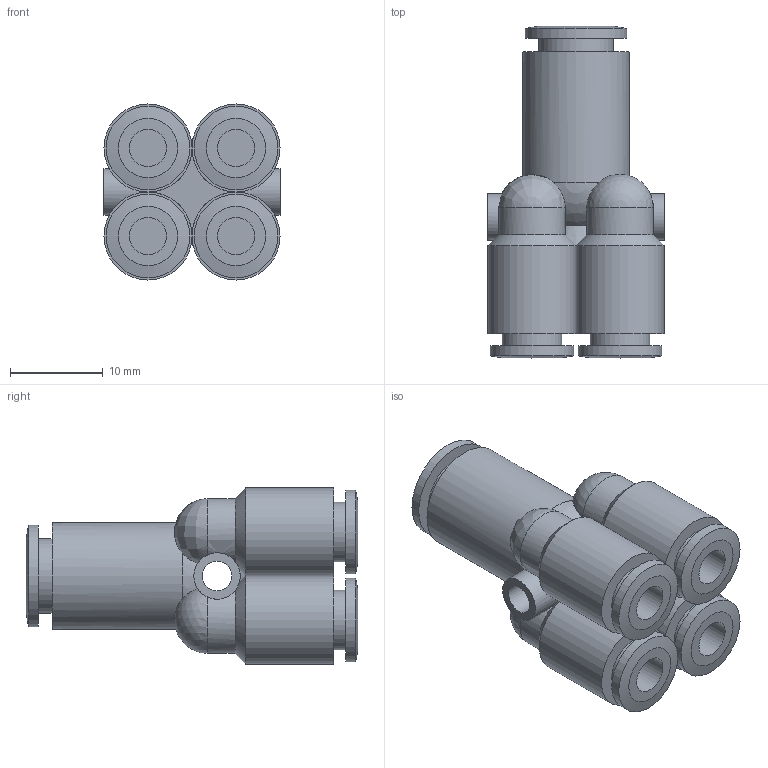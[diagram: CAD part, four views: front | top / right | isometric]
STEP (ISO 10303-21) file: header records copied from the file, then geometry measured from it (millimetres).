
FILE_DESCRIPTION((''),'2;1');
FILE_NAME('C:\Documents and Settings\rivolro1\Documenti\copia di Raccordi\PLASTICA\T24XXXX\T240406.stp','2007-11-02T15:05:08',('Rivolro1'),(''),'Autodesk Inventor 2008','Autodesk Inventor 2008','');
FILE_SCHEMA(('AUTOMOTIVE_DESIGN { 1 0 10303 214 1 1 1 1 }'));
Length unit declared in the file: millimetre
Products named in the file (1): T240406
Bounding box: 19 x 35.8 x 19 mm (x, y, z)
Volume: 5417.3 mm3; surface area: 4326.8 mm2
Topology: 1 solids, 1 shells, 79 faces, 196 edges, 120 vertices
Faces by surface type: bspline 27, cylinder 22, plane 15, cone 9, sphere 6
Full cylindrical faces by diameter (mm): 4 x2, 5 x2, 6 x1, 6.4 x2, 8 x1, 9 x2, 11 x1, 11.5 x1
Entity records: 2958 total; most frequent: CARTESIAN_POINT 1260, DIRECTION 322, ORIENTED_EDGE 320, EDGE_CURVE 160, AXIS2_PLACEMENT_3D 153, EDGE_LOOP 120, VERTEX_POINT 114, CIRCLE 100
